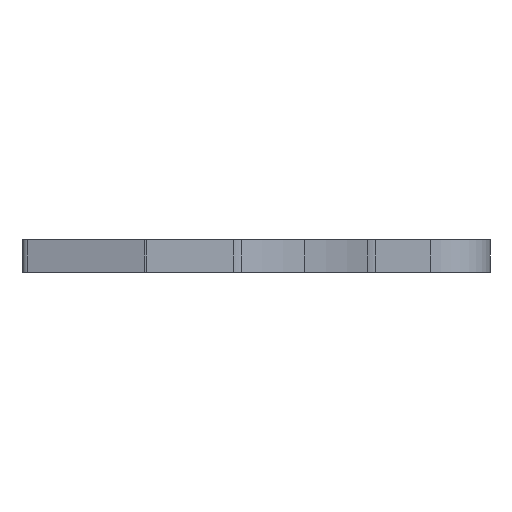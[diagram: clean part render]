
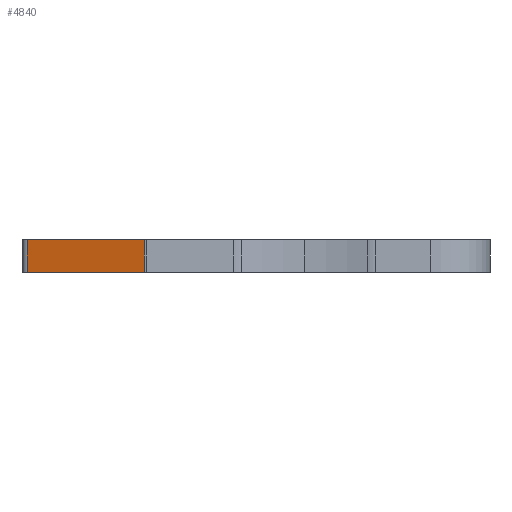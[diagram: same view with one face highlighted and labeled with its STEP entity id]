
A CAD part, left-side view. The second image highlights one B-rep face of the part: STEP entity #4840.
In plain terms, the highlighted planar face has unit normal (-0.966, 0.259, 0).
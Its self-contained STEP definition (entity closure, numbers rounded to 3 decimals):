
#3390=CARTESIAN_POINT('',(-8.853,-14.902,
2.2));
#3400=VERTEX_POINT('',#3390);
#3430=CARTESIAN_POINT('',(-13.94,-33.886,2.2)
);
#3440=DIRECTION('',(-0.259,-0.966,
0.));
#3450=VECTOR('',#3440,1.);
#3460=LINE('',#3430,#3450);
#3470=CARTESIAN_POINT('',(-6.741,-7.021,
2.2));
#3480=VERTEX_POINT('',#3470);
#3490=EDGE_CURVE('',#3480,#3400,#3460,.T.);
#4540=CARTESIAN_POINT('',(-6.741,-7.021,
2.2));
#4550=DIRECTION('',(-0.966,0.259,0.));
#4560=DIRECTION('',(0.259,0.966,0.));
#4570=AXIS2_PLACEMENT_3D('',#4540,#4550,#4560);
#4580=PLANE('',#4570);
#4590=CARTESIAN_POINT('',(-13.94,-33.886,
0.));
#4600=DIRECTION('',(-0.259,-0.966,0.));
#4610=VECTOR('',#4600,1.);
#4620=LINE('',#4590,#4610);
#4630=CARTESIAN_POINT('',(-6.741,-7.021,
0.));
#4640=VERTEX_POINT('',#4630);
#4650=CARTESIAN_POINT('',(-8.853,-14.902,
0.));
#4660=VERTEX_POINT('',#4650);
#4670=EDGE_CURVE('',#4640,#4660,#4620,.T.);
#4680=ORIENTED_EDGE('',*,*,#4670,.T.);
#4690=CARTESIAN_POINT('',(-6.741,-7.021,
2.2));
#4700=DIRECTION('',(0.,0.,-1.));
#4710=VECTOR('',#4700,1.);
#4720=LINE('',#4690,#4710);
#4730=EDGE_CURVE('',#3480,#4640,#4720,.T.);
#4740=ORIENTED_EDGE('',*,*,#4730,.T.);
#4750=ORIENTED_EDGE('',*,*,#3490,.F.);
#4760=CARTESIAN_POINT('',(-8.853,-14.902,
0.));
#4770=DIRECTION('',(0.,0.,-1.));
#4780=VECTOR('',#4770,1.);
#4790=LINE('',#4760,#4780);
#4800=EDGE_CURVE('',#3400,#4660,#4790,.T.);
#4810=ORIENTED_EDGE('',*,*,#4800,.F.);
#4820=EDGE_LOOP('',(#4810,#4750,#4740,#4680));
#4830=FACE_OUTER_BOUND('',#4820,.T.);
#4840=ADVANCED_FACE('',(#4830),#4580,.T.);
